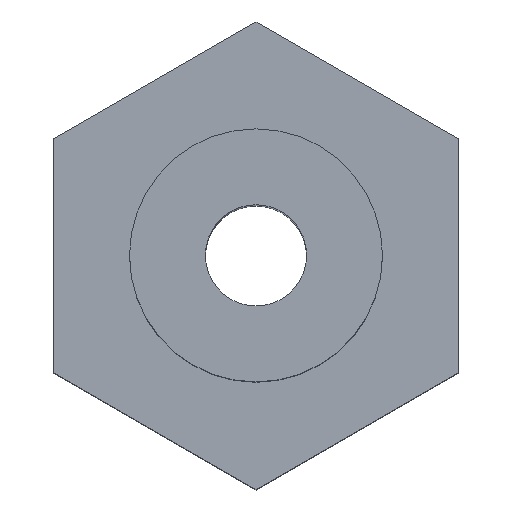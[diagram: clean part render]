
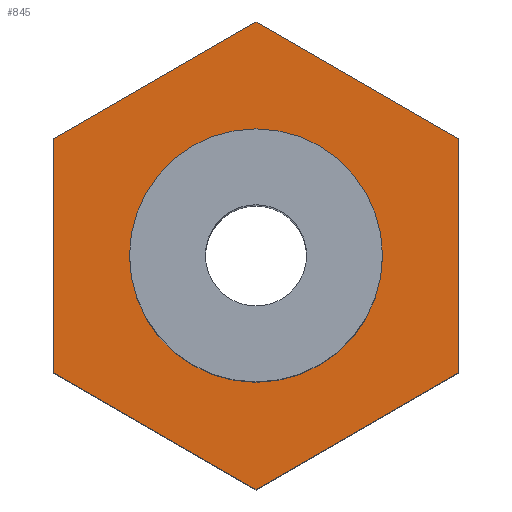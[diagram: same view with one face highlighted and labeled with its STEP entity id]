
A CAD part, top view. The second image highlights one B-rep face of the part: STEP entity #845.
In plain terms, the highlighted planar face has unit normal (0, 0, 1).
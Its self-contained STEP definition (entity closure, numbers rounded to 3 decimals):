
#53 = CARTESIAN_POINT ( 'NONE',  ( -4., 2.309, 0. ) ) ;
#72 = EDGE_CURVE ( 'NONE', #986, #954, #233, .T. ) ;
#76 = ORIENTED_EDGE ( 'NONE', *, *, #348, .F. ) ;
#78 = AXIS2_PLACEMENT_3D ( 'NONE', #1463, #1457, #1462 ) ;
#92 = PLANE ( 'NONE',  #256 ) ;
#95 = CARTESIAN_POINT ( 'NONE',  ( -4., -2.309, 0. ) ) ;
#98 = VERTEX_POINT ( 'NONE', #1429 ) ;
#160 = CARTESIAN_POINT ( 'NONE',  ( 0., 0., 0. ) ) ;
#161 = DIRECTION ( 'NONE',  ( -0.866, -0.5, 0. ) ) ;
#162 = DIRECTION ( 'NONE',  ( 0., 0., -1. ) ) ;
#165 = DIRECTION ( 'NONE',  ( 1., 0., 0. ) ) ;
#169 = DIRECTION ( 'NONE',  ( 0., -1., 0. ) ) ;
#170 = CARTESIAN_POINT ( 'NONE',  ( -4., 0., 0. ) ) ;
#174 = CARTESIAN_POINT ( 'NONE',  ( -2.5, 0., 0. ) ) ;
#184 = VERTEX_POINT ( 'NONE', #1045 ) ;
#233 = LINE ( 'NONE', #1114, #1121 ) ;
#256 = AXIS2_PLACEMENT_3D ( 'NONE', #1268, #773, #312 ) ;
#258 = DIRECTION ( 'NONE',  ( 0., 1., 0. ) ) ;
#265 = CARTESIAN_POINT ( 'NONE',  ( 4., 0., 0. ) ) ;
#268 = VERTEX_POINT ( 'NONE', #1041 ) ;
#286 = EDGE_LOOP ( 'NONE', ( #420, #1013 ) ) ;
#312 = DIRECTION ( 'NONE',  ( 1., 0., 0. ) ) ;
#335 = VERTEX_POINT ( 'NONE', #53 ) ;
#341 = EDGE_CURVE ( 'NONE', #335, #184, #357, .T. ) ;
#348 = EDGE_CURVE ( 'NONE', #184, #743, #1426, .T. ) ;
#357 = LINE ( 'NONE', #889, #1506 ) ;
#405 = EDGE_CURVE ( 'NONE', #98, #1256, #684, .T. ) ;
#418 = EDGE_CURVE ( 'NONE', #954, #335, #1511, .T. ) ;
#420 = ORIENTED_EDGE ( 'NONE', *, *, #405, .T. ) ;
#421 = EDGE_CURVE ( 'NONE', #743, #268, #1501, .T. ) ;
#426 = CARTESIAN_POINT ( 'NONE',  ( 0., -4.619, 0. ) ) ;
#542 = VECTOR ( 'NONE', #169, 1000. ) ;
#601 = ORIENTED_EDGE ( 'NONE', *, *, #341, .F. ) ;
#684 = CIRCLE ( 'NONE', #768, 2.5 ) ;
#743 = VERTEX_POINT ( 'NONE', #1412 ) ;
#768 = AXIS2_PLACEMENT_3D ( 'NONE', #160, #162, #165 ) ;
#771 = ORIENTED_EDGE ( 'NONE', *, *, #421, .F. ) ;
#773 = DIRECTION ( 'NONE',  ( 0., 0., 1. ) ) ;
#783 = DIRECTION ( 'NONE',  ( 0.866, -0.5, 0. ) ) ;
#838 = VECTOR ( 'NONE', #783, 1000. ) ;
#845 = ADVANCED_FACE ( 'NONE', ( #1174, #1171 ), #92, .T. ) ;
#881 = EDGE_CURVE ( 'NONE', #1256, #98, #1010, .T. ) ;
#889 = CARTESIAN_POINT ( 'NONE',  ( -2., 3.464, 0. ) ) ;
#897 = EDGE_LOOP ( 'NONE', ( #981, #930, #771, #76, #601, #1181 ) ) ;
#909 = CARTESIAN_POINT ( 'NONE',  ( 2., 3.464, 0. ) ) ;
#930 = ORIENTED_EDGE ( 'NONE', *, *, #1208, .F. ) ;
#938 = DIRECTION ( 'NONE',  ( 0.866, 0.5, 0. ) ) ;
#954 = VERTEX_POINT ( 'NONE', #95 ) ;
#981 = ORIENTED_EDGE ( 'NONE', *, *, #72, .F. ) ;
#986 = VERTEX_POINT ( 'NONE', #426 ) ;
#1010 = CIRCLE ( 'NONE', #78, 2.5 ) ;
#1013 = ORIENTED_EDGE ( 'NONE', *, *, #881, .T. ) ;
#1016 = CARTESIAN_POINT ( 'NONE',  ( 2., -3.464, 0. ) ) ;
#1038 = LINE ( 'NONE', #1016, #1044 ) ;
#1041 = CARTESIAN_POINT ( 'NONE',  ( 4., -2.309, 0. ) ) ;
#1044 = VECTOR ( 'NONE', #161, 1000. ) ;
#1045 = CARTESIAN_POINT ( 'NONE',  ( 0., 4.619, 0. ) ) ;
#1114 = CARTESIAN_POINT ( 'NONE',  ( -2., -3.464, 0. ) ) ;
#1121 = VECTOR ( 'NONE', #1122, 1000. ) ;
#1122 = DIRECTION ( 'NONE',  ( -0.866, 0.5, 0. ) ) ;
#1171 = FACE_OUTER_BOUND ( 'NONE', #897, .T. ) ;
#1174 = FACE_BOUND ( 'NONE', #286, .T. ) ;
#1181 = ORIENTED_EDGE ( 'NONE', *, *, #418, .F. ) ;
#1208 = EDGE_CURVE ( 'NONE', #268, #986, #1038, .T. ) ;
#1256 = VERTEX_POINT ( 'NONE', #174 ) ;
#1268 = CARTESIAN_POINT ( 'NONE',  ( 0., -3., 0. ) ) ;
#1412 = CARTESIAN_POINT ( 'NONE',  ( 4., 2.309, 0. ) ) ;
#1426 = LINE ( 'NONE', #909, #838 ) ;
#1429 = CARTESIAN_POINT ( 'NONE',  ( 2.5, 0., 0. ) ) ;
#1457 = DIRECTION ( 'NONE',  ( 0., 0., -1. ) ) ;
#1462 = DIRECTION ( 'NONE',  ( 1., 0., 0. ) ) ;
#1463 = CARTESIAN_POINT ( 'NONE',  ( 0., 0., 0. ) ) ;
#1471 = VECTOR ( 'NONE', #258, 1000. ) ;
#1501 = LINE ( 'NONE', #265, #542 ) ;
#1506 = VECTOR ( 'NONE', #938, 1000. ) ;
#1511 = LINE ( 'NONE', #170, #1471 ) ;
